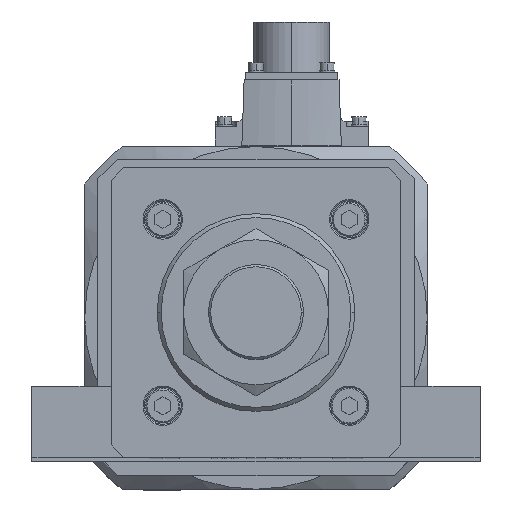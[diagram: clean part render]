
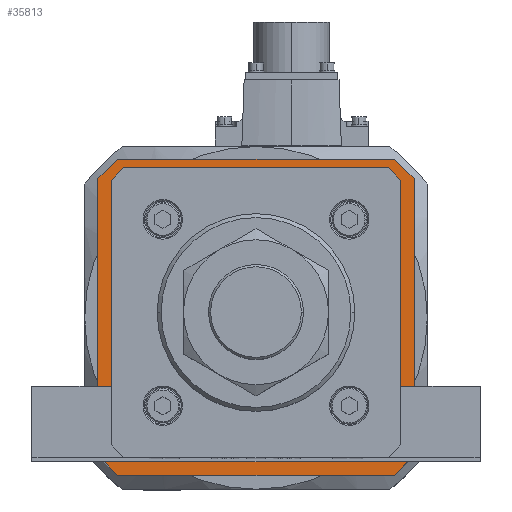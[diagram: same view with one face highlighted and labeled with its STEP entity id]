
A CAD part, top view. The second image highlights one B-rep face of the part: STEP entity #35813.
In plain terms, the highlighted planar face has unit normal (0, 0, 1).
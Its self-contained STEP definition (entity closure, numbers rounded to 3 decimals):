
#143 = CARTESIAN_POINT ( 'NONE',  ( -60., 52.5, -119. ) ) ;
#415 = CARTESIAN_POINT ( 'NONE',  ( 52.5, 60., -119. ) ) ;
#556 = AXIS2_PLACEMENT_3D ( 'NONE', #25070, #13761, #7600 ) ;
#577 = EDGE_LOOP ( 'NONE', ( #9549, #16288, #14811, #733, #8453, #27362, #37140, #25958 ) ) ;
#733 = ORIENTED_EDGE ( 'NONE', *, *, #10115, .F. ) ;
#968 = DIRECTION ( 'NONE',  ( 0.707, -0.707, 0. ) ) ;
#975 = CARTESIAN_POINT ( 'NONE',  ( 52.5, -60., -119. ) ) ;
#1234 = VECTOR ( 'NONE', #968, 1000. ) ;
#1907 = ORIENTED_EDGE ( 'NONE', *, *, #24292, .T. ) ;
#2001 = DIRECTION ( 'NONE',  ( 0.707, -0.707, 0. ) ) ;
#2125 = CARTESIAN_POINT ( 'NONE',  ( -53.5, 49.8, -119. ) ) ;
#2335 = EDGE_CURVE ( 'NONE', #23035, #5248, #20020, .T. ) ;
#2669 = CARTESIAN_POINT ( 'NONE',  ( -49.8, -53.5, -119. ) ) ;
#2958 = DIRECTION ( 'NONE',  ( 0.707, 0.707, 0. ) ) ;
#4253 = DIRECTION ( 'NONE',  ( -0.707, 0.707, 0. ) ) ;
#4460 = DIRECTION ( 'NONE',  ( -0.707, -0.707, 0. ) ) ;
#5058 = FACE_BOUND ( 'NONE', #18384, .T. ) ;
#5248 = VERTEX_POINT ( 'NONE', #33923 ) ;
#5586 = LINE ( 'NONE', #15723, #9696 ) ;
#5607 = CARTESIAN_POINT ( 'NONE',  ( 49.8, 53.5, -119. ) ) ;
#5635 = EDGE_CURVE ( 'NONE', #36334, #11554, #18122, .T. ) ;
#6214 = VECTOR ( 'NONE', #4460, 1000. ) ;
#6321 = EDGE_CURVE ( 'NONE', #31919, #36334, #30870, .T. ) ;
#6872 = VECTOR ( 'NONE', #20395, 1000. ) ;
#7036 = CARTESIAN_POINT ( 'NONE',  ( -60., -52.5, -119. ) ) ;
#7401 = CARTESIAN_POINT ( 'NONE',  ( 60., 52.5, -119. ) ) ;
#7600 = DIRECTION ( 'NONE',  ( 1., 0., 0. ) ) ;
#7690 = CARTESIAN_POINT ( 'NONE',  ( -52.5, -60., -119. ) ) ;
#7966 = VECTOR ( 'NONE', #20368, 1000. ) ;
#8453 = ORIENTED_EDGE ( 'NONE', *, *, #20122, .F. ) ;
#9118 = LINE ( 'NONE', #2669, #9557 ) ;
#9415 = EDGE_CURVE ( 'NONE', #35074, #23035, #24677, .T. ) ;
#9549 = ORIENTED_EDGE ( 'NONE', *, *, #29170, .F. ) ;
#9557 = VECTOR ( 'NONE', #20351, 1000. ) ;
#9696 = VECTOR ( 'NONE', #30233, 1000. ) ;
#9745 = DIRECTION ( 'NONE',  ( 0., -1., 0. ) ) ;
#10115 = EDGE_CURVE ( 'NONE', #11250, #25116, #17797, .T. ) ;
#10773 = CARTESIAN_POINT ( 'NONE',  ( 53.646, 49.446, -119. ) ) ;
#10823 = VERTEX_POINT ( 'NONE', #15148 ) ;
#10979 = LINE ( 'NONE', #5607, #6872 ) ;
#11223 = VERTEX_POINT ( 'NONE', #33852 ) ;
#11250 = VERTEX_POINT ( 'NONE', #36920 ) ;
#11554 = VERTEX_POINT ( 'NONE', #35978 ) ;
#11920 = DIRECTION ( 'NONE',  ( -1., 0., 0. ) ) ;
#12151 = EDGE_CURVE ( 'NONE', #26998, #10823, #5586, .T. ) ;
#12234 = VECTOR ( 'NONE', #30377, 1000. ) ;
#12652 = LINE ( 'NONE', #24261, #17162 ) ;
#13606 = DIRECTION ( 'NONE',  ( 0., 1., 0. ) ) ;
#13638 = PLANE ( 'NONE',  #556 ) ;
#13677 = LINE ( 'NONE', #975, #20482 ) ;
#13761 = DIRECTION ( 'NONE',  ( 0., 0., 1. ) ) ;
#13941 = ORIENTED_EDGE ( 'NONE', *, *, #25074, .T. ) ;
#14109 = VECTOR ( 'NONE', #30258, 1000. ) ;
#14218 = VECTOR ( 'NONE', #13606, 1000. ) ;
#14670 = VECTOR ( 'NONE', #35462, 1000. ) ;
#14811 = ORIENTED_EDGE ( 'NONE', *, *, #22493, .F. ) ;
#14942 = DIRECTION ( 'NONE',  ( 1., 0., 0. ) ) ;
#15054 = VECTOR ( 'NONE', #4253, 1000. ) ;
#15148 = CARTESIAN_POINT ( 'NONE',  ( -52.5, 60., -119. ) ) ;
#15662 = FACE_OUTER_BOUND ( 'NONE', #577, .T. ) ;
#15723 = CARTESIAN_POINT ( 'NONE',  ( -52.5, 60., -119. ) ) ;
#15724 = VERTEX_POINT ( 'NONE', #35161 ) ;
#16070 = ORIENTED_EDGE ( 'NONE', *, *, #36974, .T. ) ;
#16093 = LINE ( 'NONE', #10773, #35712 ) ;
#16288 = ORIENTED_EDGE ( 'NONE', *, *, #12151, .F. ) ;
#16370 = VECTOR ( 'NONE', #2958, 1000. ) ;
#17162 = VECTOR ( 'NONE', #9745, 1000. ) ;
#17281 = CARTESIAN_POINT ( 'NONE',  ( 60., 52.5, -119. ) ) ;
#17797 = LINE ( 'NONE', #7690, #15054 ) ;
#17902 = CARTESIAN_POINT ( 'NONE',  ( 49.593, 53.5, -119. ) ) ;
#18122 = LINE ( 'NONE', #7401, #12234 ) ;
#18384 = EDGE_LOOP ( 'NONE', ( #16070, #1907, #37250, #23056, #36128, #13941, #28589, #33385 ) ) ;
#18394 = CARTESIAN_POINT ( 'NONE',  ( 60., 52.5, -119. ) ) ;
#18618 = LINE ( 'NONE', #33060, #14109 ) ;
#19252 = CARTESIAN_POINT ( 'NONE',  ( 49.446, -53.646, -119. ) ) ;
#20020 = LINE ( 'NONE', #29469, #16370 ) ;
#20122 = EDGE_CURVE ( 'NONE', #11223, #11250, #13677, .T. ) ;
#20290 = CARTESIAN_POINT ( 'NONE',  ( 53.5, 49.593, -119. ) ) ;
#20351 = DIRECTION ( 'NONE',  ( -1., 0., 0. ) ) ;
#20368 = DIRECTION ( 'NONE',  ( 0., 1., 0. ) ) ;
#20395 = DIRECTION ( 'NONE',  ( 1., 0., 0. ) ) ;
#20482 = VECTOR ( 'NONE', #11920, 1000. ) ;
#22364 = LINE ( 'NONE', #32639, #14670 ) ;
#22493 = EDGE_CURVE ( 'NONE', #25116, #26998, #23472, .T. ) ;
#23035 = VERTEX_POINT ( 'NONE', #23875 ) ;
#23056 = ORIENTED_EDGE ( 'NONE', *, *, #26949, .T. ) ;
#23195 = CARTESIAN_POINT ( 'NONE',  ( -49.593, -53.5, -119. ) ) ;
#23472 = LINE ( 'NONE', #143, #7966 ) ;
#23875 = CARTESIAN_POINT ( 'NONE',  ( -53.5, 49.593, -119. ) ) ;
#24261 = CARTESIAN_POINT ( 'NONE',  ( 53.5, -49.8, -119. ) ) ;
#24292 = EDGE_CURVE ( 'NONE', #30270, #25327, #16093, .T. ) ;
#24677 = LINE ( 'NONE', #2125, #14218 ) ;
#24889 = VECTOR ( 'NONE', #14942, 1000. ) ;
#25070 = CARTESIAN_POINT ( 'NONE',  ( 0., 0., -119. ) ) ;
#25074 = EDGE_CURVE ( 'NONE', #27204, #35074, #18618, .T. ) ;
#25116 = VERTEX_POINT ( 'NONE', #7036 ) ;
#25327 = VERTEX_POINT ( 'NONE', #20290 ) ;
#25958 = ORIENTED_EDGE ( 'NONE', *, *, #6321, .F. ) ;
#26949 = EDGE_CURVE ( 'NONE', #35372, #15724, #37241, .T. ) ;
#26998 = VERTEX_POINT ( 'NONE', #31129 ) ;
#27204 = VERTEX_POINT ( 'NONE', #23195 ) ;
#27362 = ORIENTED_EDGE ( 'NONE', *, *, #37047, .F. ) ;
#27710 = CARTESIAN_POINT ( 'NONE',  ( -53.5, -49.593, -119. ) ) ;
#28589 = ORIENTED_EDGE ( 'NONE', *, *, #9415, .T. ) ;
#28816 = EDGE_CURVE ( 'NONE', #25327, #35372, #12652, .T. ) ;
#29170 = EDGE_CURVE ( 'NONE', #10823, #31919, #32672, .T. ) ;
#29469 = CARTESIAN_POINT ( 'NONE',  ( -49.446, 53.646, -119. ) ) ;
#30233 = DIRECTION ( 'NONE',  ( 0.707, 0.707, 0. ) ) ;
#30258 = DIRECTION ( 'NONE',  ( -0.707, 0.707, 0. ) ) ;
#30270 = VERTEX_POINT ( 'NONE', #17902 ) ;
#30377 = DIRECTION ( 'NONE',  ( 0., -1., 0. ) ) ;
#30870 = LINE ( 'NONE', #18394, #1234 ) ;
#31129 = CARTESIAN_POINT ( 'NONE',  ( -60., 52.5, -119. ) ) ;
#31438 = CARTESIAN_POINT ( 'NONE',  ( 53.5, -49.593, -119. ) ) ;
#31919 = VERTEX_POINT ( 'NONE', #32568 ) ;
#32568 = CARTESIAN_POINT ( 'NONE',  ( 52.5, 60., -119. ) ) ;
#32639 = CARTESIAN_POINT ( 'NONE',  ( 60., -52.5, -119. ) ) ;
#32672 = LINE ( 'NONE', #415, #24889 ) ;
#33060 = CARTESIAN_POINT ( 'NONE',  ( -53.646, -49.446, -119. ) ) ;
#33385 = ORIENTED_EDGE ( 'NONE', *, *, #2335, .T. ) ;
#33852 = CARTESIAN_POINT ( 'NONE',  ( 52.5, -60., -119. ) ) ;
#33923 = CARTESIAN_POINT ( 'NONE',  ( -49.593, 53.5, -119. ) ) ;
#35074 = VERTEX_POINT ( 'NONE', #27710 ) ;
#35161 = CARTESIAN_POINT ( 'NONE',  ( 49.593, -53.5, -119. ) ) ;
#35372 = VERTEX_POINT ( 'NONE', #31438 ) ;
#35462 = DIRECTION ( 'NONE',  ( -0.707, -0.707, 0. ) ) ;
#35712 = VECTOR ( 'NONE', #2001, 1000. ) ;
#35813 = ADVANCED_FACE ( 'NONE', ( #5058, #15662 ), #13638, .T. ) ;
#35978 = CARTESIAN_POINT ( 'NONE',  ( 60., -52.5, -119. ) ) ;
#36128 = ORIENTED_EDGE ( 'NONE', *, *, #37690, .T. ) ;
#36334 = VERTEX_POINT ( 'NONE', #17281 ) ;
#36920 = CARTESIAN_POINT ( 'NONE',  ( -52.5, -60., -119. ) ) ;
#36974 = EDGE_CURVE ( 'NONE', #5248, #30270, #10979, .T. ) ;
#37047 = EDGE_CURVE ( 'NONE', #11554, #11223, #22364, .T. ) ;
#37140 = ORIENTED_EDGE ( 'NONE', *, *, #5635, .F. ) ;
#37241 = LINE ( 'NONE', #19252, #6214 ) ;
#37250 = ORIENTED_EDGE ( 'NONE', *, *, #28816, .T. ) ;
#37690 = EDGE_CURVE ( 'NONE', #15724, #27204, #9118, .T. ) ;
